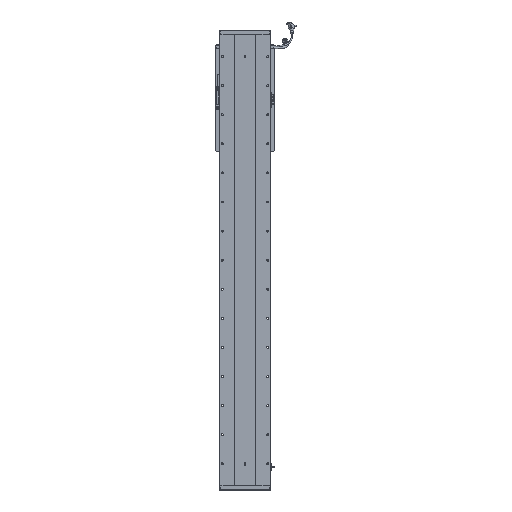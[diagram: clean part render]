
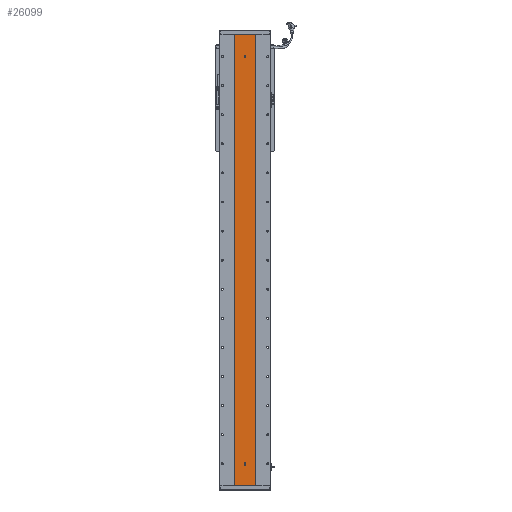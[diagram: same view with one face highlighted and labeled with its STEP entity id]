
A CAD part, front view. The second image highlights one B-rep face of the part: STEP entity #26099.
In plain terms, the highlighted planar face has unit normal (0, -1, 0).
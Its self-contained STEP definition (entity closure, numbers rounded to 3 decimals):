
#355 = CARTESIAN_POINT ( 'NONE',  ( 3283.529, 1415.701, 74.5 ) ) ;
#2204 = ORIENTED_EDGE ( 'NONE', *, *, #48299, .F. ) ;
#2994 = VERTEX_POINT ( 'NONE', #98694 ) ;
#3681 = FACE_BOUND ( 'NONE', #18367, .T. ) ;
#6399 = AXIS2_PLACEMENT_3D ( 'NONE', #69032, #86601, #69727 ) ;
#6640 = DIRECTION ( 'NONE',  ( 1., 0., 0. ) ) ;
#6771 = LINE ( 'NONE', #28878, #11850 ) ;
#6871 = VERTEX_POINT ( 'NONE', #57080 ) ;
#7010 = CARTESIAN_POINT ( 'NONE',  ( 3244.748, 1415.701, 1552. ) ) ;
#11850 = VECTOR ( 'NONE', #69552, 1000. ) ;
#12167 = DIRECTION ( 'NONE',  ( 0., 0., 1. ) ) ;
#13635 = AXIS2_PLACEMENT_3D ( 'NONE', #14193, #70781, #37879 ) ;
#14193 = CARTESIAN_POINT ( 'NONE',  ( 3244.748, 1415.701, 1552. ) ) ;
#14213 = VERTEX_POINT ( 'NONE', #355 ) ;
#14259 = VECTOR ( 'NONE', #61973, 1000. ) ;
#14891 = LINE ( 'NONE', #7010, #98282 ) ;
#15026 = VERTEX_POINT ( 'NONE', #26041 ) ;
#15175 = AXIS2_PLACEMENT_3D ( 'NONE', #19668, #19309, #51826 ) ;
#15249 = PLANE ( 'NONE',  #13635 ) ;
#16029 = CARTESIAN_POINT ( 'NONE',  ( 3316.311, 1415.701, 1552. ) ) ;
#16743 = EDGE_CURVE ( 'NONE', #47101, #21550, #77410, .T. ) ;
#18367 = EDGE_LOOP ( 'NONE', ( #57448, #55031 ) ) ;
#19116 = DIRECTION ( 'NONE',  ( 0., -1., 0. ) ) ;
#19309 = DIRECTION ( 'NONE',  ( 0., -1., 0. ) ) ;
#19647 = ORIENTED_EDGE ( 'NONE', *, *, #35341, .F. ) ;
#19668 = CARTESIAN_POINT ( 'NONE',  ( 3280.529, 1415.701, 77.5 ) ) ;
#20345 = EDGE_CURVE ( 'NONE', #43153, #48814, #65322, .T. ) ;
#20567 = LINE ( 'NONE', #23700, #66137 ) ;
#21014 = CARTESIAN_POINT ( 'NONE',  ( 3316.311, 1415.701, 0. ) ) ;
#21550 = VERTEX_POINT ( 'NONE', #34211 ) ;
#21576 = CIRCLE ( 'NONE', #83791, 3. ) ;
#23700 = CARTESIAN_POINT ( 'NONE',  ( 3244.748, 1415.701, 1552. ) ) ;
#23734 = VECTOR ( 'NONE', #12167, 1000. ) ;
#23897 = FACE_OUTER_BOUND ( 'NONE', #84622, .T. ) ;
#24106 = DIRECTION ( 'NONE',  ( 0., 0., -1. ) ) ;
#26003 = ORIENTED_EDGE ( 'NONE', *, *, #42274, .F. ) ;
#26041 = CARTESIAN_POINT ( 'NONE',  ( 3277.529, 1415.701, 77.5 ) ) ;
#26099 = ADVANCED_FACE ( 'NONE', ( #56810, #3681, #23897 ), #15249, .F. ) ;
#27739 = CARTESIAN_POINT ( 'NONE',  ( 3280.529, 1415.701, 1473. ) ) ;
#28878 = CARTESIAN_POINT ( 'NONE',  ( 3277.529, 1415.701, 77.5 ) ) ;
#28977 = EDGE_CURVE ( 'NONE', #6871, #15026, #51428, .T. ) ;
#32892 = CARTESIAN_POINT ( 'NONE',  ( 3244.748, 1415.701, 1552. ) ) ;
#34211 = CARTESIAN_POINT ( 'NONE',  ( 3280.529, 1415.701, 1479. ) ) ;
#35341 = EDGE_CURVE ( 'NONE', #102713, #2994, #76514, .T. ) ;
#37879 = DIRECTION ( 'NONE',  ( 0., 0., 1. ) ) ;
#37976 = EDGE_CURVE ( 'NONE', #50581, #43153, #20567, .T. ) ;
#38938 = DIRECTION ( 'NONE',  ( 0., 0., -1. ) ) ;
#41872 = CARTESIAN_POINT ( 'NONE',  ( 3244.748, 1415.701, 0. ) ) ;
#42274 = EDGE_CURVE ( 'NONE', #14213, #6871, #89403, .T. ) ;
#42484 = EDGE_CURVE ( 'NONE', #2994, #14213, #86880, .T. ) ;
#42814 = CARTESIAN_POINT ( 'NONE',  ( 3277.529, 1415.701, 74.5 ) ) ;
#43153 = VERTEX_POINT ( 'NONE', #90033 ) ;
#44406 = ORIENTED_EDGE ( 'NONE', *, *, #84207, .F. ) ;
#47101 = VERTEX_POINT ( 'NONE', #27739 ) ;
#48299 = EDGE_CURVE ( 'NONE', #15026, #102713, #6771, .T. ) ;
#48814 = VERTEX_POINT ( 'NONE', #21014 ) ;
#50576 = CARTESIAN_POINT ( 'NONE',  ( 3280.529, 1415.701, 74.5 ) ) ;
#50581 = VERTEX_POINT ( 'NONE', #32892 ) ;
#51428 = CIRCLE ( 'NONE', #15175, 3. ) ;
#51826 = DIRECTION ( 'NONE',  ( 0., 0., -1. ) ) ;
#52154 = EDGE_LOOP ( 'NONE', ( #19647, #2204, #59458, #26003, #56762 ) ) ;
#54714 = CARTESIAN_POINT ( 'NONE',  ( 3280.529, 1415.701, 1476. ) ) ;
#55031 = ORIENTED_EDGE ( 'NONE', *, *, #67483, .F. ) ;
#56762 = ORIENTED_EDGE ( 'NONE', *, *, #42484, .F. ) ;
#56810 = FACE_BOUND ( 'NONE', #52154, .T. ) ;
#57080 = CARTESIAN_POINT ( 'NONE',  ( 3283.529, 1415.701, 77.5 ) ) ;
#57448 = ORIENTED_EDGE ( 'NONE', *, *, #16743, .F. ) ;
#58736 = DIRECTION ( 'NONE',  ( 0., 0., -1. ) ) ;
#59458 = ORIENTED_EDGE ( 'NONE', *, *, #28977, .F. ) ;
#61973 = DIRECTION ( 'NONE',  ( 0., 0., -1. ) ) ;
#65322 = LINE ( 'NONE', #41872, #103140 ) ;
#66137 = VECTOR ( 'NONE', #38938, 1000. ) ;
#66283 = DIRECTION ( 'NONE',  ( 1., 0., 0. ) ) ;
#67483 = EDGE_CURVE ( 'NONE', #21550, #47101, #21576, .T. ) ;
#69032 = CARTESIAN_POINT ( 'NONE',  ( 3280.529, 1415.701, 1476. ) ) ;
#69552 = DIRECTION ( 'NONE',  ( 0., 0., -1. ) ) ;
#69727 = DIRECTION ( 'NONE',  ( 0., 0., -1. ) ) ;
#70781 = DIRECTION ( 'NONE',  ( 0., 1., 0. ) ) ;
#76417 = ORIENTED_EDGE ( 'NONE', *, *, #37976, .T. ) ;
#76514 = CIRCLE ( 'NONE', #100273, 3. ) ;
#76983 = VERTEX_POINT ( 'NONE', #16029 ) ;
#77161 = CARTESIAN_POINT ( 'NONE',  ( 3283.529, 1415.701, 77.5 ) ) ;
#77410 = CIRCLE ( 'NONE', #6399, 3. ) ;
#79389 = DIRECTION ( 'NONE',  ( 0., 0., -1. ) ) ;
#80787 = EDGE_CURVE ( 'NONE', #76983, #48814, #90039, .T. ) ;
#83468 = ORIENTED_EDGE ( 'NONE', *, *, #80787, .F. ) ;
#83791 = AXIS2_PLACEMENT_3D ( 'NONE', #54714, #88203, #79389 ) ;
#84207 = EDGE_CURVE ( 'NONE', #50581, #76983, #14891, .T. ) ;
#84253 = ORIENTED_EDGE ( 'NONE', *, *, #20345, .T. ) ;
#84622 = EDGE_LOOP ( 'NONE', ( #84253, #83468, #44406, #76417 ) ) ;
#86601 = DIRECTION ( 'NONE',  ( 0., -1., 0. ) ) ;
#86637 = CARTESIAN_POINT ( 'NONE',  ( 3316.311, 1415.701, 1552. ) ) ;
#86880 = CIRCLE ( 'NONE', #98806, 3. ) ;
#88203 = DIRECTION ( 'NONE',  ( 0., -1., 0. ) ) ;
#89082 = CARTESIAN_POINT ( 'NONE',  ( 3280.529, 1415.701, 74.5 ) ) ;
#89403 = LINE ( 'NONE', #77161, #23734 ) ;
#90033 = CARTESIAN_POINT ( 'NONE',  ( 3244.748, 1415.701, 0. ) ) ;
#90039 = LINE ( 'NONE', #86637, #14259 ) ;
#98282 = VECTOR ( 'NONE', #6640, 1000. ) ;
#98694 = CARTESIAN_POINT ( 'NONE',  ( 3280.529, 1415.701, 71.5 ) ) ;
#98806 = AXIS2_PLACEMENT_3D ( 'NONE', #89082, #104625, #24106 ) ;
#100273 = AXIS2_PLACEMENT_3D ( 'NONE', #50576, #19116, #58736 ) ;
#102713 = VERTEX_POINT ( 'NONE', #42814 ) ;
#103140 = VECTOR ( 'NONE', #66283, 1000. ) ;
#104625 = DIRECTION ( 'NONE',  ( 0., -1., 0. ) ) ;
